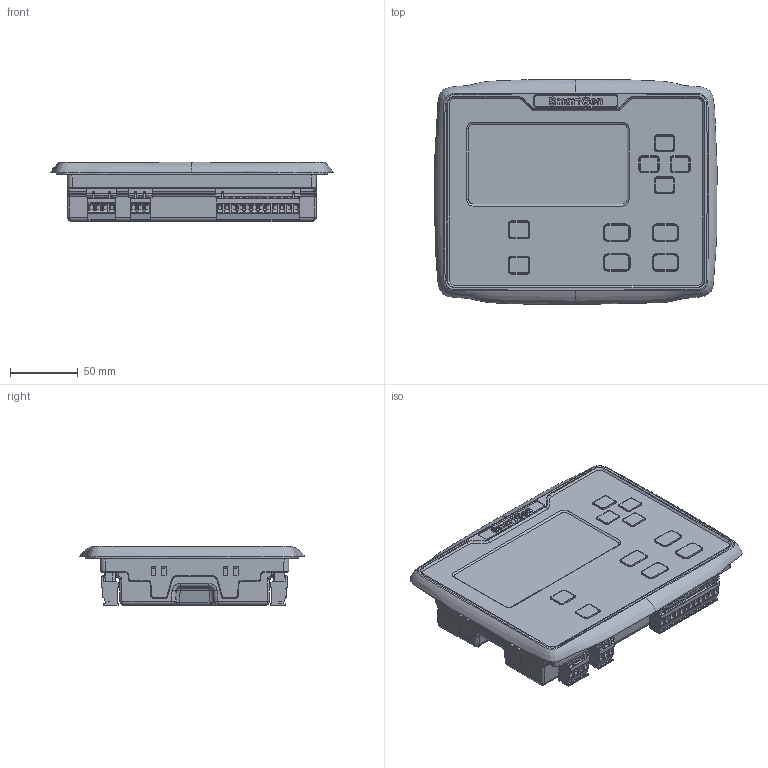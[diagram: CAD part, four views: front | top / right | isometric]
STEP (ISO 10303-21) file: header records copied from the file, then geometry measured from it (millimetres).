
FILE_DESCRIPTION (( 'STEP AP203' ), '1' );
FILE_NAME ('HGM6110NC-5¡¢6120NC-5 WZ.STEP', '2025-10-21T07:25:05', ( '' ), ( '' ), 'SwSTEP 2.0', 'SolidWorks 2024', '' );
FILE_SCHEMA (( 'CONFIG_CONTROL_DESIGN' ));
Products named in the file (1): HGM6110NC-5、6120NC-5 WZ
Bounding box: 208.35 x 166.13 x 44.29 mm (x, y, z)
Volume: 1023744.7 mm3; surface area: 143260.7 mm2
Topology: 18 solids, 79 shells, 5230 faces, 13126 edges, 8347 vertices
Faces by surface type: plane 3759, cylinder 1146, bspline 217, cone 100, torus 4, sphere 4
Entity records: 174512 total; most frequent: CARTESIAN_POINT 48820, ORIENTED_EDGE 26236, DIRECTION 25687, EDGE_CURVE 13118, LINE 9651, VECTOR 9651, VERTEX_POINT 8347, AXIS2_PLACEMENT_3D 8018
